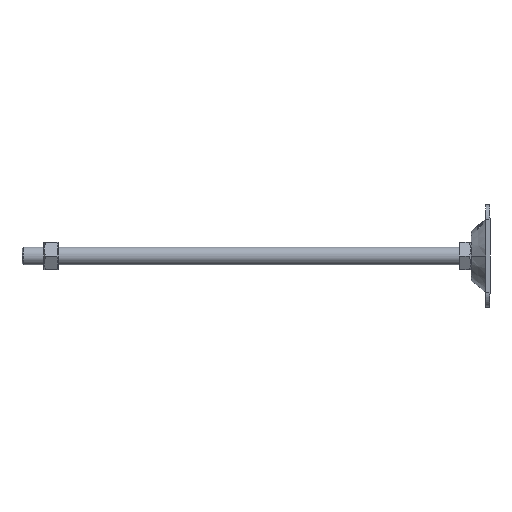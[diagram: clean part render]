
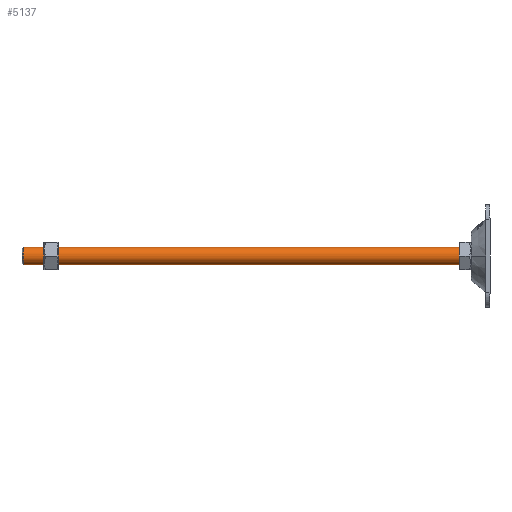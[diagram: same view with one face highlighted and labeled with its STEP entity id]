
A CAD part, left-side view. The second image highlights one B-rep face of the part: STEP entity #5137.
In plain terms, the highlighted cylindrical face has radius 6 mm (diameter 12 mm), a partial arc.
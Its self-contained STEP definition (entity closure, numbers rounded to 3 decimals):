
#128 = CARTESIAN_POINT ( 'NONE',  ( 0., 307., -6. ) ) ;
#414 = ORIENTED_EDGE ( 'NONE', *, *, #1165, .T. ) ;
#684 = VECTOR ( 'NONE', #1235, 1000. ) ;
#803 = CARTESIAN_POINT ( 'NONE',  ( 0., 8., 6. ) ) ;
#1116 = DIRECTION ( 'NONE',  ( 0., -1., 0. ) ) ;
#1159 = CARTESIAN_POINT ( 'NONE',  ( 0., 8., 0. ) ) ;
#1165 = EDGE_CURVE ( 'NONE', #2210, #2435, #3795, .T. ) ;
#1235 = DIRECTION ( 'NONE',  ( 0., -1., 0. ) ) ;
#1371 = FACE_OUTER_BOUND ( 'NONE', #5159, .T. ) ;
#1417 = VECTOR ( 'NONE', #5789, 1000. ) ;
#1440 = ORIENTED_EDGE ( 'NONE', *, *, #4403, .T. ) ;
#1591 = CARTESIAN_POINT ( 'NONE',  ( 0., 307., 0. ) ) ;
#2210 = VERTEX_POINT ( 'NONE', #4374 ) ;
#2307 = CYLINDRICAL_SURFACE ( 'NONE', #3451, 6. ) ;
#2435 = VERTEX_POINT ( 'NONE', #803 ) ;
#2577 = CIRCLE ( 'NONE', #4890, 6. ) ;
#2705 = VERTEX_POINT ( 'NONE', #3555 ) ;
#2863 = ORIENTED_EDGE ( 'NONE', *, *, #4295, .F. ) ;
#3211 = CARTESIAN_POINT ( 'NONE',  ( 0., 6., 0. ) ) ;
#3432 = LINE ( 'NONE', #4456, #684 ) ;
#3441 = DIRECTION ( 'NONE',  ( 0., 0., 1. ) ) ;
#3451 = AXIS2_PLACEMENT_3D ( 'NONE', #3211, #5048, #4145 ) ;
#3555 = CARTESIAN_POINT ( 'NONE',  ( 0., 307., 6. ) ) ;
#3795 = CIRCLE ( 'NONE', #5620, 6. ) ;
#3900 = DIRECTION ( 'NONE',  ( 0., 1., 0. ) ) ;
#4145 = DIRECTION ( 'NONE',  ( 0., 0., -1. ) ) ;
#4258 = ORIENTED_EDGE ( 'NONE', *, *, #4957, .T. ) ;
#4295 = EDGE_CURVE ( 'NONE', #2705, #2435, #4831, .T. ) ;
#4303 = DIRECTION ( 'NONE',  ( 0., 0., -1. ) ) ;
#4374 = CARTESIAN_POINT ( 'NONE',  ( 0., 8., -6. ) ) ;
#4398 = CARTESIAN_POINT ( 'NONE',  ( 0., 6., 6. ) ) ;
#4403 = EDGE_CURVE ( 'NONE', #5213, #2210, #3432, .T. ) ;
#4456 = CARTESIAN_POINT ( 'NONE',  ( 0., 6., -6. ) ) ;
#4831 = LINE ( 'NONE', #4398, #1417 ) ;
#4890 = AXIS2_PLACEMENT_3D ( 'NONE', #1591, #1116, #4303 ) ;
#4957 = EDGE_CURVE ( 'NONE', #2705, #5213, #2577, .T. ) ;
#5048 = DIRECTION ( 'NONE',  ( 0., -1., 0. ) ) ;
#5137 = ADVANCED_FACE ( 'NONE', ( #1371 ), #2307, .T. ) ;
#5159 = EDGE_LOOP ( 'NONE', ( #2863, #4258, #1440, #414 ) ) ;
#5213 = VERTEX_POINT ( 'NONE', #128 ) ;
#5620 = AXIS2_PLACEMENT_3D ( 'NONE', #1159, #3900, #3441 ) ;
#5789 = DIRECTION ( 'NONE',  ( 0., -1., 0. ) ) ;
